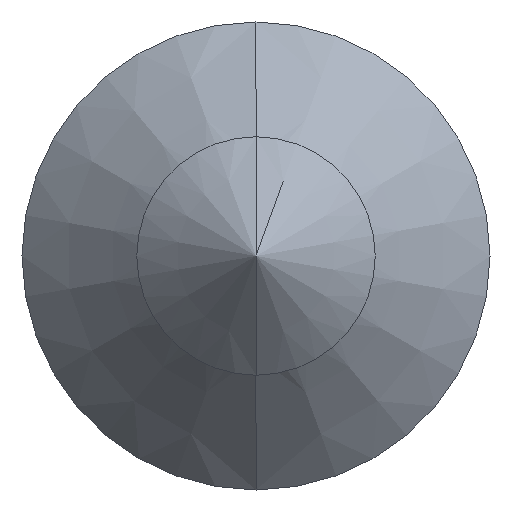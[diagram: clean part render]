
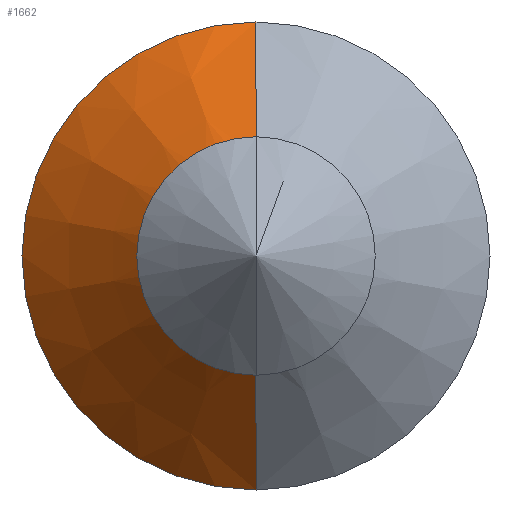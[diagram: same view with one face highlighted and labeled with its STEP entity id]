
A CAD part, left-side view. The second image highlights one B-rep face of the part: STEP entity #1662.
In plain terms, the highlighted conical face has half-angle 45 degrees and reference radius 2.1 mm.
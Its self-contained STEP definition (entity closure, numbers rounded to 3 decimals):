
#102 = CARTESIAN_POINT ( 'NONE',  ( -2.545, 0., 0.9 ) ) ;
#103 = VERTEX_POINT ( 'NONE', #2342 ) ;
#106 = ORIENTED_EDGE ( 'NONE', *, *, #2102, .T. ) ;
#135 = VERTEX_POINT ( 'NONE', #1743 ) ;
#149 = CIRCLE ( 'NONE', #1778, 2.1 ) ;
#193 = EDGE_CURVE ( 'NONE', #103, #1566, #2015, .T. ) ;
#396 = CARTESIAN_POINT ( 'NONE',  ( -1.345, 0., 0. ) ) ;
#409 = CONICAL_SURFACE ( 'NONE', #1686, 2.1, 0.785 ) ;
#451 = VECTOR ( 'NONE', #1180, 1000. ) ;
#514 = DIRECTION ( 'NONE',  ( 0.707, 0., 0.707 ) ) ;
#660 = DIRECTION ( 'NONE',  ( -1., 0., 0. ) ) ;
#758 = EDGE_CURVE ( 'Arista4', #1481, #103, #2515, .T. ) ;
#782 = ORIENTED_EDGE ( 'NONE', *, *, #2278, .T. ) ;
#964 = AXIS2_PLACEMENT_3D ( 'NONE', #1823, #660, #2011 ) ;
#1007 = VECTOR ( 'NONE', #514, 1000. ) ;
#1074 = FACE_OUTER_BOUND ( 'NONE', #2178, .T. ) ;
#1124 = LINE ( 'NONE', #1495, #1007 ) ;
#1175 = CARTESIAN_POINT ( 'NONE',  ( -1.345, 0., -2.1 ) ) ;
#1179 = DIRECTION ( 'NONE',  ( -1., 0., 0. ) ) ;
#1180 = DIRECTION ( 'NONE',  ( 0.707, 0., -0.707 ) ) ;
#1375 = DIRECTION ( 'NONE',  ( 1., 0., 0. ) ) ;
#1439 = ORIENTED_EDGE ( 'NONE', *, *, #193, .F. ) ;
#1481 = VERTEX_POINT ( 'NONE', #102 ) ;
#1495 = CARTESIAN_POINT ( 'NONE',  ( -1.345, 0., 2.1 ) ) ;
#1566 = VERTEX_POINT ( 'NONE', #1175 ) ;
#1662 = ADVANCED_FACE ( 'NONE', ( #1074 ), #409, .T. ) ;
#1686 = AXIS2_PLACEMENT_3D ( 'NONE', #396, #1375, #2532 ) ;
#1743 = CARTESIAN_POINT ( 'NONE',  ( -1.345, 0., 2.1 ) ) ;
#1778 = AXIS2_PLACEMENT_3D ( 'NONE', #2334, #1179, #2524 ) ;
#1823 = CARTESIAN_POINT ( 'NONE',  ( -2.545, 0., 0. ) ) ;
#2011 = DIRECTION ( 'NONE',  ( 0., 0., 1. ) ) ;
#2015 = LINE ( 'NONE', #2525, #451 ) ;
#2102 = EDGE_CURVE ( 'NONE', #1481, #135, #1124, .T. ) ;
#2178 = EDGE_LOOP ( 'NONE', ( #2426, #106, #782, #1439 ) ) ;
#2278 = EDGE_CURVE ( 'NONE', #135, #1566, #149, .T. ) ;
#2334 = CARTESIAN_POINT ( 'NONE',  ( -1.345, 0., 0. ) ) ;
#2342 = CARTESIAN_POINT ( 'NONE',  ( -2.545, 0., -0.9 ) ) ;
#2426 = ORIENTED_EDGE ( 'NONE', *, *, #758, .F. ) ;
#2515 = CIRCLE ( 'NONE', #964, 0.9 ) ;
#2524 = DIRECTION ( 'NONE',  ( 0., 0., 1. ) ) ;
#2525 = CARTESIAN_POINT ( 'NONE',  ( -1.345, 0., -2.1 ) ) ;
#2532 = DIRECTION ( 'NONE',  ( 0., 0., -1. ) ) ;
